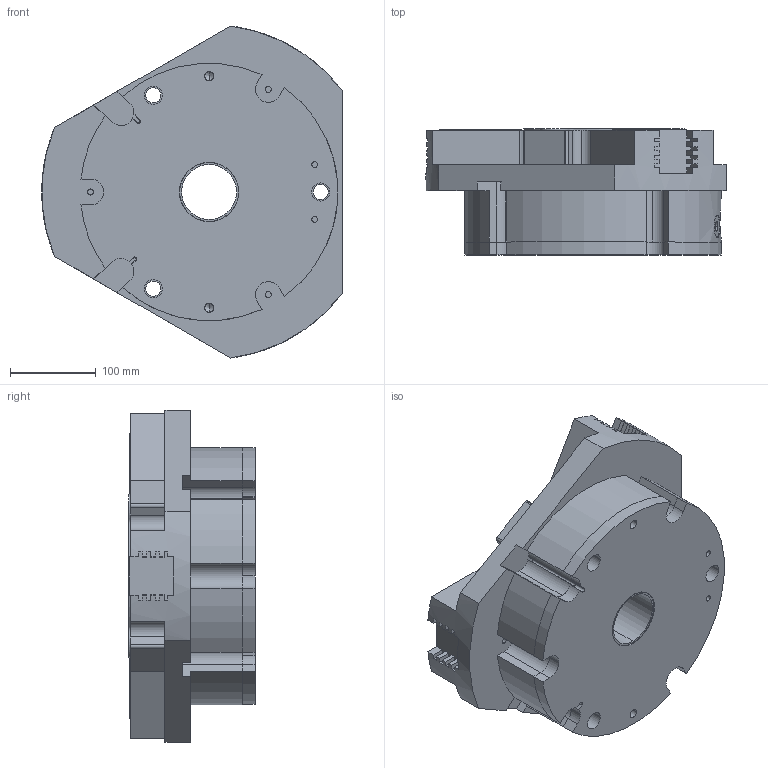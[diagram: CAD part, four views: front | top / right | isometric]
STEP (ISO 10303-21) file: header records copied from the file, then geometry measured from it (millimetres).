
FILE_DESCRIPTION (( 'STEP AP214' ), '1' );
FILE_NAME ('THB-300A-2.STEP', '2020-09-11T06:59:47', ( '' ), ( '' ), 'SwSTEP 2.0', 'SolidWorks 2016', '' );
FILE_SCHEMA (( 'AUTOMOTIVE_DESIGN' ));
Length unit declared in the file: millimetre
Products named in the file (6): THB-300A-2-03; THB-300A-2-01; THB-300A-2-04; THB-300A-2-05; THB-300A-2; THB-300A-2-02
Assembly tree (7 placements, depth 2):
  THB-300A-2
    THB-300A-2-01
    THB-300A-2-02  x3
    THB-300A-2-03
    THB-300A-2-04
    THB-300A-2-05
Bounding box: 349.86 x 147 x 386.79 mm (x, y, z)
Volume: 9553188.3 mm3; surface area: 887342.7 mm2
Topology: 7 solids, 7 shells, 581 faces, 1609 edges, 1040 vertices
Faces by surface type: plane 325, cylinder 200, cone 56
Entity records: 15679 total; most frequent: CARTESIAN_POINT 2760, DIRECTION 2705, ORIENTED_EDGE 2538, EDGE_CURVE 1269, AXIS2_PLACEMENT_3D 969, VERTEX_POINT 836, LINE 767, VECTOR 767
